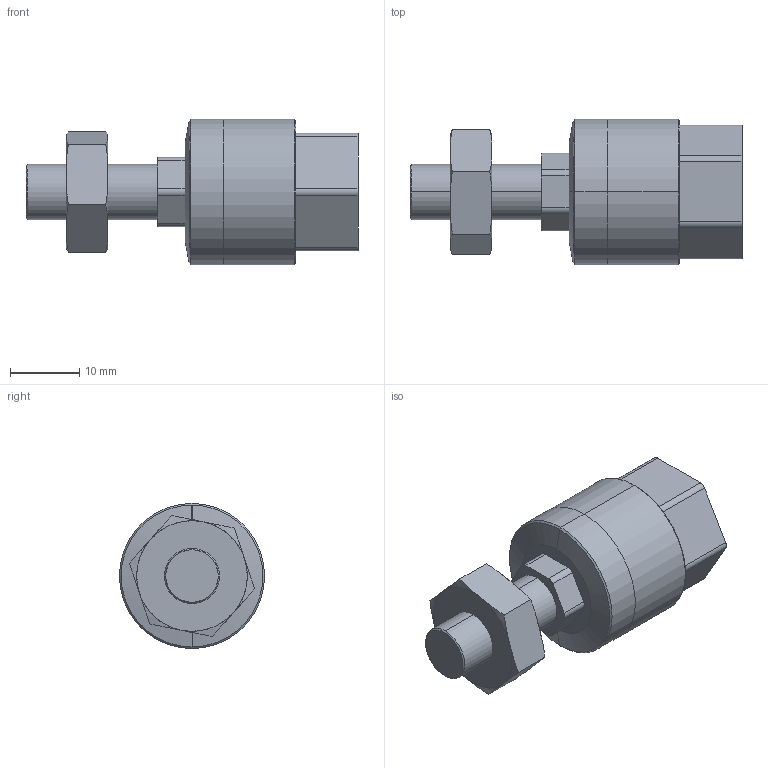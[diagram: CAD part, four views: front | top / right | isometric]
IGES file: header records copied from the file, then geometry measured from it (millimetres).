
Start section: SolidWorks IGES file using analytic representation for surfaces
Global section: file name: D:\MI\新增資料夾\FC\FCM8-1.25.IGS; native system: SolidWorks 2013; preprocessor: SolidWorks 2013; author: Sam Lin; date: 160323.114017; units: millimetre
Bounding box: 48 x 21 x 21 mm (x, y, z)
Surface area: 4049.9 mm2 (no closed solid volume)
Topology: 0 solids, 0 shells, 69 faces, 808 edges, 806 vertices
Faces by surface type: bspline 37, revolution 32
